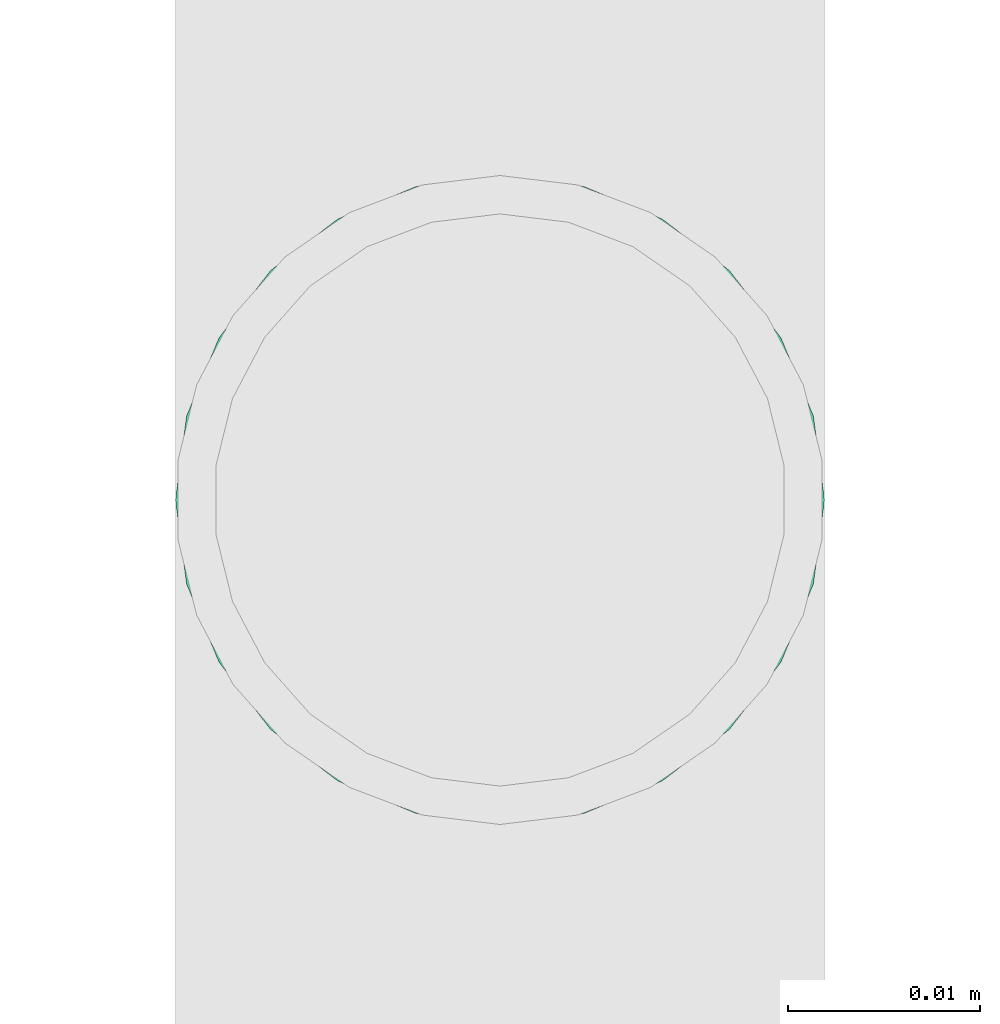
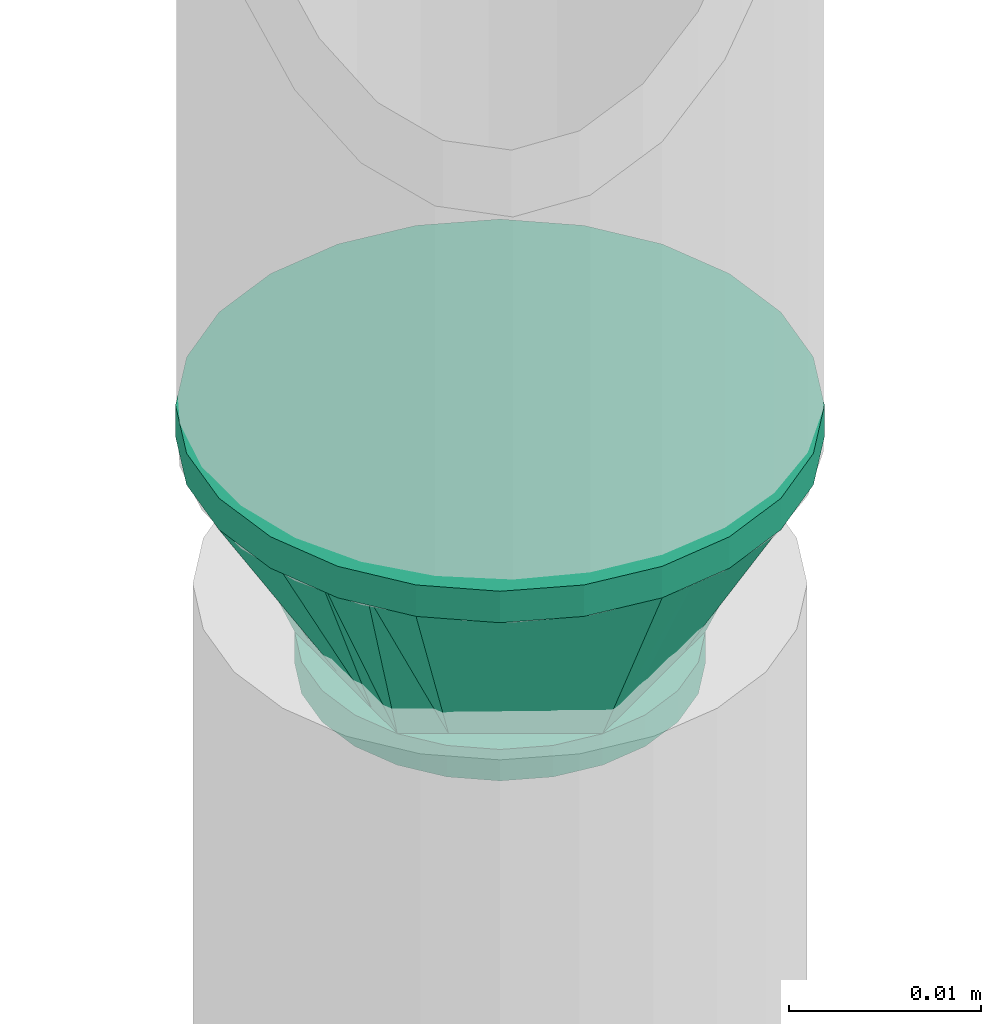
# One storey, part 76 of 94: 1 flow fitting.
"""IFC2X3 building model written with IfcOpenShell, lengths in millimetres."""

from ifc_helpers import new_model, entity, si_unit, converted_unit, derived_unit, direction, frame, origin_with_axes, place, context, subcontext, project, spatial, open_shell, surface_model, source, transform, mapped, type_object, element, save


model = new_model("IFC2X3")

# Units and contexts
model_context = context("Model", 3, precision=0.01, world=frame((0.0, 4.29681676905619e-09, 0.0)), true_north=direction((4.01073788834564e-13, 1.0)))
plan_context = context("Plan", 3, precision=0.01, world=frame((0.0, 4.29681676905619e-09, 0.0)), true_north=direction((4.01073788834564e-13, 1.0)))
body_context = subcontext(model_context, "Body", "Model", "MODEL_VIEW")
ifc_project = project(units=[converted_unit("PLANEANGLEUNIT", "DEGREE", entity("IfcPositiveLengthMeasure", 0.0174532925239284), si_unit("PLANEANGLEUNIT", "RADIAN"), dimensions=[0, 0, 0, 0, 0, 0, 0]), si_unit("AREAUNIT", "SQUARE_METRE"), si_unit("LENGTHUNIT", "METRE", prefix="MILLI"), si_unit("MASSUNIT", "GRAM", prefix="KILO"), si_unit("POWERUNIT", "WATT"), si_unit("PRESSUREUNIT", "PASCAL", prefix="KILO"), si_unit("FORCEUNIT", "NEWTON", prefix="KILO"), si_unit("ELECTRICVOLTAGEUNIT", "VOLT"), si_unit("ELECTRICCURRENTUNIT", "AMPERE"), si_unit("THERMODYNAMICTEMPERATUREUNIT", "DEGREE_CELSIUS"), si_unit("TIMEUNIT", "SECOND"), si_unit("VOLUMEUNIT", "CUBIC_METRE"), derived_unit("LINEARVELOCITYUNIT", [(si_unit("LENGTHUNIT", "METRE"), 1), (si_unit("TIMEUNIT", "SECOND"), -1)]), derived_unit("VOLUMETRICFLOWRATEUNIT", [(si_unit("VOLUMEUNIT", "CUBIC_METRE"), 1), (si_unit("TIMEUNIT", "SECOND"), -1)]), derived_unit("THERMALTRANSMITTANCEUNIT", [(si_unit("POWERUNIT", "WATT"), 1), (si_unit("THERMODYNAMICTEMPERATUREUNIT", "KELVIN"), -1), (si_unit("AREAUNIT", "SQUARE_METRE"), -1)]), derived_unit("SOUNDPRESSUREUNIT", [(si_unit("PRESSUREUNIT", "PASCAL"), 1)])], contexts=[model_context, plan_context])

# Site, building, storey
site_placement = place(None, frame((0.0, -4.29681676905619e-09, 0.0), z_axis=(0.0, 0.0, 1.0), x_axis=(1.0, 0.0, 0.0)))
site = spatial("IfcSite", under=ifc_project, at=site_placement, CompositionType="ELEMENT")
building_placement = place(site_placement, frame((0.0, 4.29681676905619e-09, 0.0), z_axis=(0.0, 0.0, 1.0), x_axis=(1.0, 0.0, 0.0)))
building = spatial("IfcBuilding", under=site, at=building_placement, Name="mc-building", CompositionType="ELEMENT")
storey_placement = place(building_placement, frame((0.0, 0.0, 210900.0), z_axis=(0.0, 0.0, 1.0), x_axis=(1.0, 0.0, 0.0)))
storey = spatial("IfcBuildingStorey", under=building, at=storey_placement, Name="Nivå F", CompositionType="ELEMENT", Elevation=210900.0)

# Flow fitting
pipe_fitting_type = type_object("IfcPipeFittingType", Name="magi_pipe_fe_reducer_centric_short_NOR", PredefinedType="TRANSITION")
shared_shape = source(origin_with_axes(), body_context, "Body", "SurfaceModel", [
    surface_model("IfcShellBasedSurfaceModel", [(14.4, 5.35, -9.26647), (14.4, 0.0, -10.7), (14.4, 2.76936, -10.33541), (14.4, 10.33541, -2.76936), (14.4, 7.56604, -7.56604), (14.4, -10.33541, -2.76936), (14.4, 9.26647, -5.35), (14.4, 0.0, 10.7), (14.4, -5.35, -9.26647), (14.4, -2.76936, -10.33541), (14.4, -7.56604, -7.56604), (14.4, -9.26647, -5.35), (14.4, 10.7, 0.0), (14.4, 10.33541, 2.76936), (14.4, 9.26647, 5.35), (14.4, 7.56604, 7.56604), (14.4, 2.76936, 10.33541), (14.4, 5.35, 9.26647), (14.4, -10.33541, 2.76936), (14.4, -7.56604, 7.56604), (14.4, -9.26647, 5.35), (14.4, -10.7, 0.0), (14.4, -2.76936, 10.33541), (14.4, -5.35, 9.26647), (12.4, 2.76936, 10.33541), (12.4, -10.33541, -2.76936), (12.4, 0.0, 10.7), (12.4, 5.35, 9.26647), (12.4, 7.56604, 7.56604), (12.4, 9.26647, 5.35), (12.4, 10.33541, 2.76936), (12.4, -10.33541, 2.76936), (12.4, -2.76936, 10.33541), (12.4, -7.56604, 7.56604), (12.4, -5.35, 9.26647), (12.4, -9.26647, 5.35), (12.4, -10.7, 0.0), (12.4, 10.33541, -2.76936), (12.4, 5.35, -9.26647), (12.4, 9.26647, -5.35), (12.4, 7.56604, -7.56604), (12.4, 2.76936, -10.33541), (12.4, -9.26647, -5.35), (12.4, -5.35, -9.26647), (12.4, -7.56604, -7.56604), (12.4, 0.0, -10.7), (12.4, -2.76936, -10.33541), (12.4, 10.7, 0.0), (-2.0, 11.9501, 11.9501), (-2.0, 0.0, 16.9), (-2.0, 4.37404, 16.32415), (-2.0, 8.45, 14.63583), (-2.0, 14.63583, 8.45), (-2.0, 16.32415, 4.37404), (-2.0, -16.32415, 4.37404), (-2.0, -8.45, 14.63583), (-2.0, -14.63583, 8.45), (-2.0, -11.9501, 11.9501), (-2.0, -4.37404, 16.32415), (-2.0, -16.32415, -4.37404), (-2.0, -16.9, 0.0), (-2.0, -8.45, -14.63583), (-2.0, 16.32415, -4.37404), (-2.0, 11.9501, -11.9501), (-2.0, 14.63583, -8.45), (-2.0, 8.45, -14.63583), (-2.0, 4.37404, -16.32415), (-2.0, 0.0, -16.9), (-2.0, -11.9501, -11.9501), (-2.0, -14.63583, -8.45), (-2.0, -4.37404, -16.32415), (-2.0, 16.9, 0.0), (0.0, 4.37404, -16.32415), (0.0, 8.45, -14.63583), (0.0, 11.9501, -11.9501), (0.0, 0.0, -16.9), (0.0, 16.32415, -4.37404), (0.0, 16.32415, 4.37404), (0.0, 14.63583, -8.45), (0.0, -8.45, -14.63583), (0.0, -4.37404, -16.32415), (0.0, -11.9501, -11.9501), (0.0, -16.32415, -4.37404), (0.0, -14.63583, -8.45), (0.0, -16.32415, 4.37404), (0.0, 16.9, 0.0), (0.0, 14.63583, 8.45), (0.0, 11.9501, 11.9501), (0.0, 4.37404, 16.32415), (0.0, 8.45, 14.63583), (0.0, 0.0, 16.9), (0.0, -14.63583, 8.45), (0.0, -16.9, 0.0), (0.0, -8.45, 14.63583), (0.0, -11.9501, 11.9501), (0.0, -4.37404, 16.32415), (12.4, 9.3625, -2.31662), (0.0, 14.42505, -5.97505), (0.0, 15.66253, -2.98753), (12.4, -6.6875, -6.94985), (0.0, -13.18758, -8.96258), (0.0, 2.98753, -15.66253), (12.4, 0.0, -9.26647), (12.4, 6.6875, -6.94985), (0.0, 8.96258, -13.18758), (12.4, -9.3625, -2.31662), (0.0, -15.66253, -2.98753), (0.0, -14.42505, -5.97505), (0.0, 5.97505, -14.42505), (0.0, -2.98753, -15.66253), (0.0, -8.96258, -13.18758), (0.0, 13.18758, -8.96258), (12.4, 8.025, -4.63324), (12.4, -2.675, -9.26647), (12.4, 2.675, -9.26647), (0.0, -5.97505, -14.42505), (12.4, -8.025, -4.63324), (12.4, -9.3625, 2.31662), (0.0, -14.42505, 5.97505), (0.0, -15.66253, 2.98753), (12.4, 6.6875, 6.94985), (0.0, 13.18758, 8.96258), (0.0, -2.98753, 15.66253), (12.4, 0.0, 9.26647), (12.4, -6.6875, 6.94985), (0.0, -8.96258, 13.18758), (12.4, 9.3625, 2.31662), (0.0, 15.66253, 2.98753), (0.0, 14.42505, 5.97505), (0.0, -5.97505, 14.42505), (0.0, 2.98753, 15.66253), (0.0, 8.96258, 13.18758), (0.0, -13.18758, 8.96258), (12.4, -8.025, 4.63324), (12.4, 2.675, 9.26647), (12.4, -2.675, 9.26647), (0.0, 5.97505, 14.42505), (12.4, 8.025, 4.63324)], [open_shell([[[0, 1, 2]], [[3, 0, 4]], [[5, 0, 3]], [[3, 4, 6]], [[7, 5, 3]], [[1, 8, 9]], [[1, 0, 8]], [[10, 5, 11]], [[5, 10, 8]], [[0, 5, 8]], [[3, 12, 13]], [[13, 14, 15]], [[13, 15, 16]], [[7, 3, 16]], [[16, 15, 17]], [[7, 18, 5]], [[18, 19, 20]], [[21, 5, 18]], [[19, 22, 23]], [[22, 19, 18]], [[7, 22, 18]], [[13, 16, 3]], [[24, 25, 26]], [[27, 25, 24]], [[28, 29, 30]], [[28, 25, 27]], [[31, 26, 25]], [[32, 33, 34]], [[33, 32, 31]], [[33, 31, 35]], [[32, 26, 31]], [[31, 25, 36]], [[30, 37, 28]], [[25, 28, 37]], [[38, 37, 39]], [[37, 38, 25]], [[38, 39, 40]], [[41, 25, 38]], [[42, 43, 44]], [[43, 42, 25]], [[43, 45, 46]], [[43, 25, 41]], [[41, 45, 43]], [[37, 30, 47]], [[25, 5, 36]], [[42, 11, 25]], [[8, 44, 43]], [[42, 44, 10]], [[9, 43, 46]], [[25, 11, 5]], [[5, 21, 36]], [[9, 8, 43]], [[10, 44, 8]], [[10, 11, 42]], [[1, 9, 46]], [[46, 45, 1]], [[41, 2, 45]], [[38, 0, 41]], [[6, 40, 39]], [[38, 40, 4]], [[3, 39, 37]], [[38, 4, 0]], [[0, 2, 41]], [[12, 3, 37]], [[6, 39, 3]], [[6, 4, 40]], [[47, 12, 37]], [[45, 2, 1]], [[30, 13, 47]], [[29, 14, 30]], [[17, 28, 27]], [[29, 28, 15]], [[16, 27, 24]], [[30, 14, 13]], [[13, 12, 47]], [[16, 17, 27]], [[15, 28, 17]], [[15, 14, 29]], [[7, 16, 24]], [[24, 26, 7]], [[32, 22, 26]], [[34, 23, 32]], [[20, 33, 35]], [[34, 33, 19]], [[18, 35, 31]], [[34, 19, 23]], [[23, 22, 32]], [[21, 18, 31]], [[20, 35, 18]], [[20, 19, 33]], [[36, 21, 31]], [[26, 22, 7]], [[48, 49, 50]], [[48, 50, 51]], [[48, 52, 53]], [[48, 53, 49]], [[49, 53, 54]], [[55, 56, 57]], [[55, 58, 49]], [[56, 55, 49]], [[49, 54, 56]], [[54, 59, 60]], [[54, 53, 61]], [[53, 62, 63]], [[63, 62, 64]], [[63, 65, 66]], [[61, 53, 63]], [[67, 63, 66]], [[59, 68, 69]], [[68, 59, 61]], [[61, 67, 70]], [[59, 54, 61]], [[63, 67, 61]], [[53, 71, 62]], [[72, 73, 74]], [[75, 72, 74]], [[74, 76, 77]], [[76, 74, 78]], [[74, 77, 79]], [[75, 79, 80]], [[75, 74, 79]], [[81, 82, 83]], [[82, 81, 79]], [[79, 84, 82]], [[77, 76, 85]], [[77, 86, 87]], [[77, 87, 88]], [[88, 84, 79]], [[88, 87, 89]], [[84, 88, 90]], [[90, 91, 84]], [[92, 82, 84]], [[91, 93, 94]], [[91, 90, 93]], [[93, 90, 95]], [[79, 77, 88]], [[59, 82, 60]], [[69, 83, 59]], [[79, 68, 61]], [[69, 68, 81]], [[80, 61, 70]], [[59, 83, 82]], [[82, 92, 60]], [[80, 79, 61]], [[81, 68, 79]], [[81, 83, 69]], [[75, 80, 70]], [[70, 67, 75]], [[66, 72, 67]], [[65, 73, 66]], [[78, 63, 64]], [[65, 63, 74]], [[76, 64, 62]], [[65, 74, 73]], [[73, 72, 66]], [[85, 76, 62]], [[78, 64, 76]], [[78, 74, 63]], [[71, 85, 62]], [[67, 72, 75]], [[53, 77, 71]], [[52, 86, 53]], [[89, 48, 51]], [[52, 48, 87]], [[88, 51, 50]], [[53, 86, 77]], [[77, 85, 71]], [[88, 89, 51]], [[87, 48, 89]], [[87, 86, 52]], [[90, 88, 50]], [[50, 49, 90]], [[58, 95, 49]], [[55, 93, 58]], [[91, 57, 56]], [[55, 57, 94]], [[84, 56, 54]], [[55, 94, 93]], [[93, 95, 58]], [[92, 84, 54]], [[91, 56, 84]], [[91, 94, 57]], [[60, 92, 54]], [[49, 95, 90]], [[27, 34, 47]], [[47, 34, 43]], [[43, 38, 47]], [[43, 34, 36]], [[90, 87, 94]], [[92, 94, 87]], [[87, 74, 92]], [[75, 92, 74]], [[81, 92, 75]], [[74, 87, 85]], [[96, 97, 98]], [[81, 99, 100]], [[101, 102, 75]], [[98, 85, 47]], [[74, 103, 104]], [[104, 103, 38]], [[105, 106, 107]], [[38, 108, 104]], [[102, 109, 75]], [[110, 99, 81]], [[47, 96, 98]], [[103, 111, 112]], [[109, 102, 113]], [[36, 92, 106]], [[102, 101, 114]], [[110, 115, 43]], [[96, 112, 97]], [[107, 116, 105]], [[36, 106, 105]], [[113, 115, 109]], [[43, 115, 113]], [[116, 107, 100]], [[108, 38, 114]], [[111, 103, 74]], [[111, 97, 112]], [[99, 110, 43]], [[116, 100, 99]], [[101, 108, 114]], [[117, 118, 119]], [[87, 120, 121]], [[122, 123, 90]], [[119, 92, 36]], [[94, 124, 125]], [[125, 124, 34]], [[126, 127, 128]], [[34, 129, 125]], [[123, 130, 90]], [[131, 120, 87]], [[36, 117, 119]], [[124, 132, 133]], [[130, 123, 134]], [[47, 85, 127]], [[123, 122, 135]], [[131, 136, 27]], [[117, 133, 118]], [[128, 137, 126]], [[47, 127, 126]], [[134, 136, 130]], [[27, 136, 134]], [[137, 128, 121]], [[129, 34, 135]], [[132, 124, 94]], [[132, 118, 133]], [[120, 131, 27]], [[137, 121, 120]], [[122, 129, 135]]])]),
])
flow_fitting_placement = place(storey_placement, frame((720388.90308, 443252.252, 3059.35200000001), z_axis=(1.0, 0.0, 0.0), x_axis=(0.0, 0.0, -1.0)))
element("IfcFlowFitting", 1, at=flow_fitting_placement, inside=storey, type_object=pipe_fitting_type, Name="magi_pipe_fe_reducer_centric_short_NOR", context=body_context, shape_type="MappedRepresentation", body=[
    mapped(shared_shape, transform((0.0, 0.0, 0.0), scale=1.0)),
])

save(model, "model.ifc")
